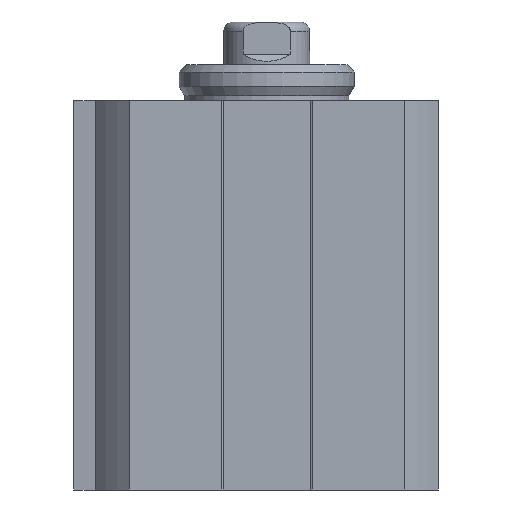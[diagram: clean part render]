
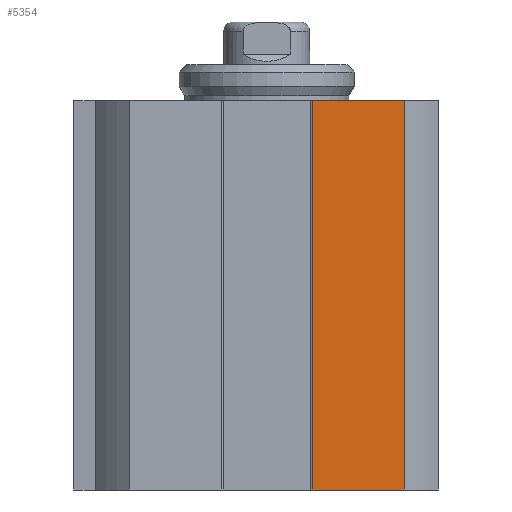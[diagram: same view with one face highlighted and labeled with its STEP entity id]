
A CAD part, left-side view. The second image highlights one B-rep face of the part: STEP entity #5354.
In plain terms, the highlighted planar face has unit normal (-1, 0, 0).
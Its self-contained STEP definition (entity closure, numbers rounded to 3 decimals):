
#64=LINE('',#7357,#326);
#179=LINE('',#7727,#441);
#180=LINE('',#7730,#442);
#181=LINE('',#7731,#443);
#326=VECTOR('',#6112,1000.);
#441=VECTOR('',#6465,1000.);
#442=VECTOR('',#6466,1000.);
#443=VECTOR('',#6467,1000.);
#656=PLANE('',#5698);
#1020=ORIENTED_EDGE('',*,*,#1926,.F.);
#1021=ORIENTED_EDGE('',*,*,#1927,.T.);
#1022=ORIENTED_EDGE('',*,*,#1748,.T.);
#1023=ORIENTED_EDGE('',*,*,#1928,.T.);
#1748=EDGE_CURVE('',#2237,#2236,#64,.T.);
#1926=EDGE_CURVE('',#2361,#2362,#179,.T.);
#1927=EDGE_CURVE('',#2361,#2237,#180,.T.);
#1928=EDGE_CURVE('',#2236,#2362,#181,.T.);
#2236=VERTEX_POINT('',#7356);
#2237=VERTEX_POINT('',#7358);
#2361=VERTEX_POINT('',#7728);
#2362=VERTEX_POINT('',#7729);
#2872=EDGE_LOOP('',(#1020,#1021,#1022,#1023));
#3229=FACE_BOUND('',#2872,.T.);
#5354=ADVANCED_FACE('',(#3229),#656,.T.);
#5698=AXIS2_PLACEMENT_3D('',#7726,#6463,#6464);
#6112=DIRECTION('',(0.,0.,1.));
#6463=DIRECTION('',(-1.,0.,0.));
#6464=DIRECTION('',(0.,0.,1.));
#6465=DIRECTION('',(0.,0.,1.));
#6466=DIRECTION('',(0.,-1.,0.));
#6467=DIRECTION('',(0.,1.,0.));
#7356=CARTESIAN_POINT('',(-23.,-19.261,54.5));
#7357=CARTESIAN_POINT('',(-23.,-19.261,0.));
#7358=CARTESIAN_POINT('',(-23.,-19.261,0.));
#7726=CARTESIAN_POINT('',(-23.,-19.261,0.));
#7727=CARTESIAN_POINT('',(-23.,-6.375,0.));
#7728=CARTESIAN_POINT('',(-23.,-6.375,0.));
#7729=CARTESIAN_POINT('',(-23.,-6.375,54.5));
#7730=CARTESIAN_POINT('',(-23.,-6.375,0.));
#7731=CARTESIAN_POINT('',(-23.,-19.261,54.5));
